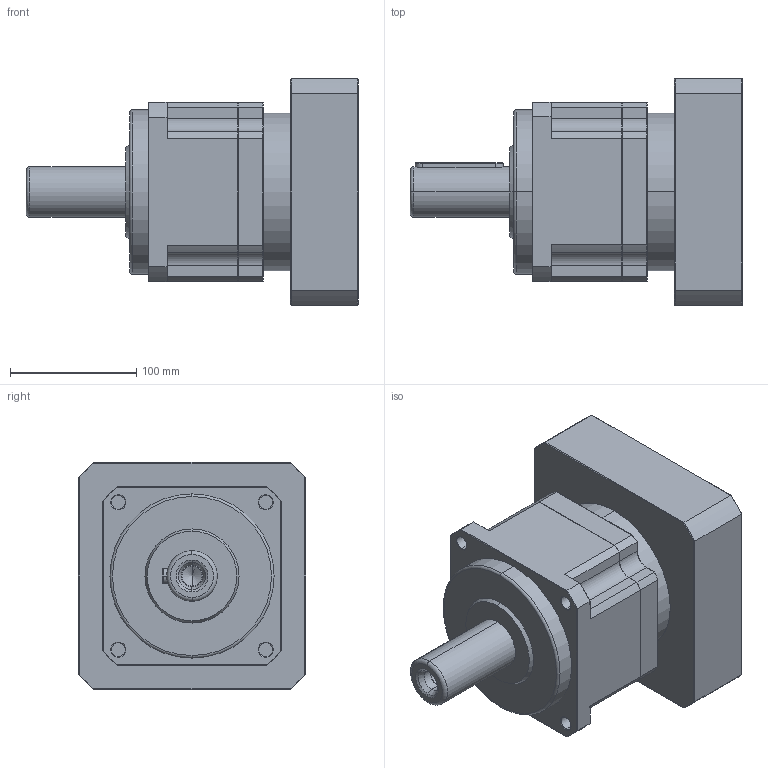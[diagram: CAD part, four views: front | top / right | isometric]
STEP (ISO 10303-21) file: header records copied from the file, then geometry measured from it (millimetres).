
FILE_DESCRIPTION (( 'STEP AP203' ), '1' );
FILE_NAME ('TB142-L1-35-114.3-200-M12-84-15.STEP', '2020-07-13T07:54:15', ( '' ), ( '' ), 'SwSTEP 2.0', 'SolidWorks 2017', '' );
FILE_SCHEMA (( 'CONFIG_CONTROL_DESIGN' ));
Length unit declared in the file: millimetre
Products named in the file (5): 標杶-TB142-001 41-78-19; TB142-L1-35-114.3-200-M12-84-15; 法兰TB142-114.3-200-M12-15-方180厚53.5   （B.TB142.FLA.000.001）; TB142-L1等僇; 平键12×8×70
Assembly tree (4 placements, depth 2):
  TB142-L1-35-114.3-200-M12-84-15
    TB142-L1等僇
    標杶-TB142-001 41-78-19
    法兰TB142-114.3-200-M12-15-方180厚53.5   （B.TB142.FLA.000.001）
    平键12×8×70
Bounding box: 263 x 180 x 180 mm (x, y, z)
Volume: 3555664.2 mm3; surface area: 254044.3 mm2
Topology: 4 solids, 4 shells, 294 faces, 683 edges, 405 vertices
Faces by surface type: plane 108, cylinder 90, cone 86, torus 10
Entity records: 9050 total; most frequent: CARTESIAN_POINT 1847, DIRECTION 1467, ORIENTED_EDGE 1346, EDGE_CURVE 673, AXIS2_PLACEMENT_3D 571, VERTEX_POINT 405, VECTOR 325, LINE 325
